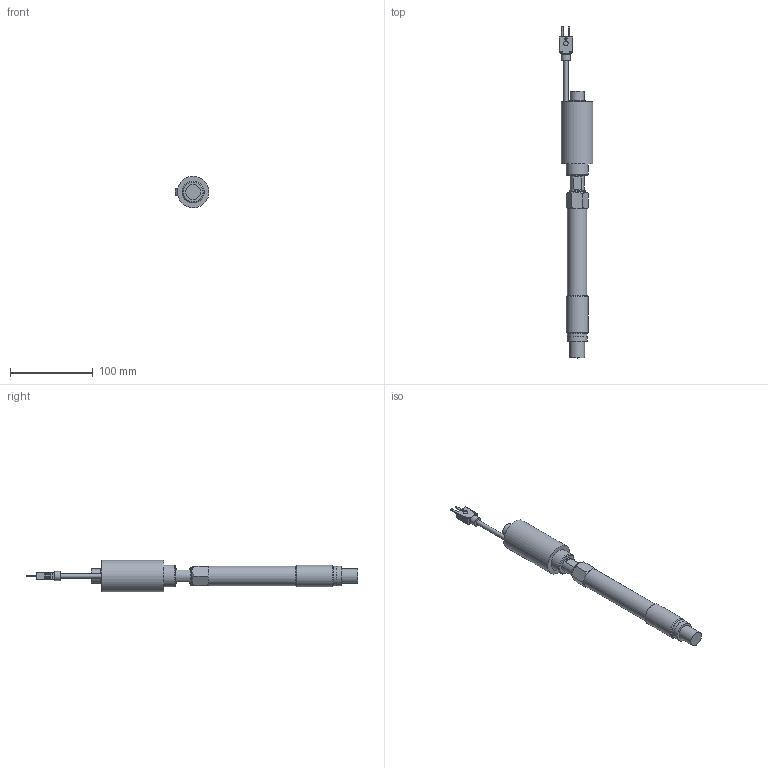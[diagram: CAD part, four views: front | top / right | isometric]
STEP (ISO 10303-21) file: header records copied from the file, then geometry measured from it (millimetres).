
FILE_DESCRIPTION (( 'STEP AP203' ), '1' );
FILE_NAME ('YICZ200PLC-1(0).STEP', '2023-07-28T05:55:34', ( '' ), ( '' ), 'SwSTEP 2.0', 'SolidWorks 2021', '' );
FILE_SCHEMA (( 'CONFIG_CONTROL_DESIGN' ));
Length unit declared in the file: millimetre
Products named in the file (1): YICZ200PLC-1(0)
Bounding box: 40.74 x 400.75 x 37.99 mm (x, y, z)
Volume: 188412.6 mm3; surface area: 52034.9 mm2
Topology: 2 solids, 5 shells, 192 faces, 431 edges, 261 vertices
Faces by surface type: plane 84, cylinder 77, cone 18, sphere 12, torus 1
Full cylindrical faces by diameter (mm): 1.7 x2, 2.6 x3, 4 x1, 4.2 x1, 5.4 x1, 5.5 x1, 11 x1, 16.2 x1, 17 x4, 18 x2, 19 x1, 23.5 x2, 24 x1, 26.441 x1, 26.5 x1, 38 x1
Entity records: 5373 total; most frequent: CARTESIAN_POINT 1244, DIRECTION 852, ORIENTED_EDGE 764, EDGE_CURVE 382, AXIS2_PLACEMENT_3D 336, EDGE_LOOP 254, VERTEX_POINT 252, FACE_OUTER_BOUND 217
